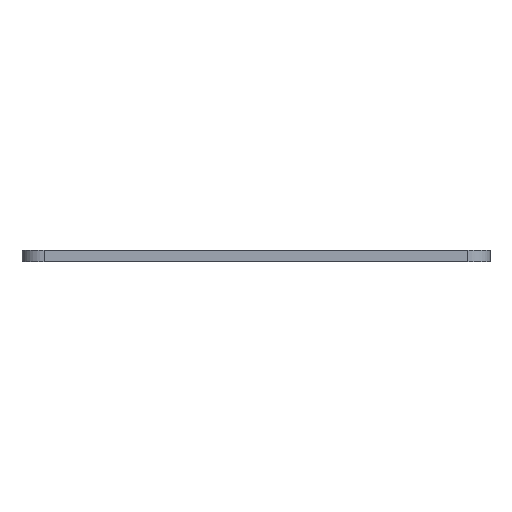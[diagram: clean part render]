
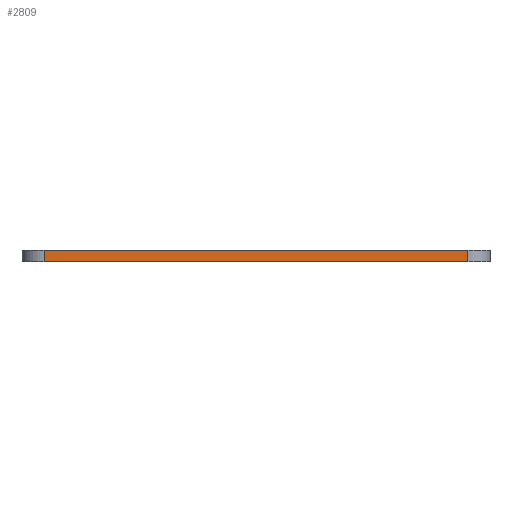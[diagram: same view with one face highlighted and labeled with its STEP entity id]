
A CAD part, front view. The second image highlights one B-rep face of the part: STEP entity #2809.
In plain terms, the highlighted planar face has unit normal (0, -1, 0).
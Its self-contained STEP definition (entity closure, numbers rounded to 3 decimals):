
#96=PLANE('',#3095);
#265=VECTOR('',#3584,1.);
#283=VECTOR('',#3657,1.);
#350=VECTOR('',#3854,1.);
#351=VECTOR('',#3856,1.);
#520=LINE('',#4403,#265);
#538=LINE('',#4495,#283);
#605=LINE('',#4674,#350);
#606=LINE('',#4676,#351);
#803=VERTEX_POINT('',#4402);
#804=VERTEX_POINT('',#4404);
#849=VERTEX_POINT('',#4494);
#850=VERTEX_POINT('',#4496);
#1305=EDGE_CURVE('',#804,#803,#520,.T.);
#1351=EDGE_CURVE('',#850,#849,#538,.T.);
#1440=EDGE_CURVE('',#849,#804,#605,.T.);
#1441=EDGE_CURVE('',#850,#803,#606,.T.);
#2249=ORIENTED_EDGE('',*,*,#1305,.T.);
#2250=ORIENTED_EDGE('',*,*,#1441,.F.);
#2251=ORIENTED_EDGE('',*,*,#1351,.T.);
#2252=ORIENTED_EDGE('',*,*,#1440,.T.);
#2463=EDGE_LOOP('',(#2249,#2250,#2251,#2252));
#2668=FACE_BOUND('',#2463,.T.);
#2809=ADVANCED_FACE('',(#2668),#96,.T.);
#3095=AXIS2_PLACEMENT_3D('',#4675,#3855,$);
#3584=DIRECTION('',(-1.,0.,0.));
#3657=DIRECTION('',(1.,0.,0.));
#3854=DIRECTION('',(0.,0.,1.));
#3855=DIRECTION('',(0.,-1.,0.));
#3856=DIRECTION('',(0.,0.,1.));
#4402=CARTESIAN_POINT('',(-38.,-38.5,1.));
#4403=CARTESIAN_POINT('',(-38.,-38.5,1.));
#4404=CARTESIAN_POINT('',(38.,-38.5,1.));
#4494=CARTESIAN_POINT('',(38.,-38.5,-1.));
#4495=CARTESIAN_POINT('',(-38.,-38.5,-1.));
#4496=CARTESIAN_POINT('',(-38.,-38.5,-1.));
#4674=CARTESIAN_POINT('',(38.,-38.5,-1.));
#4675=CARTESIAN_POINT('',(0.,-38.5,-1.));
#4676=CARTESIAN_POINT('',(-38.,-38.5,-1.));
